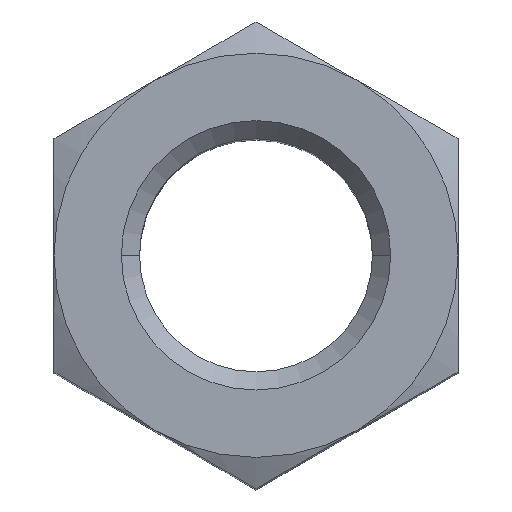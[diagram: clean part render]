
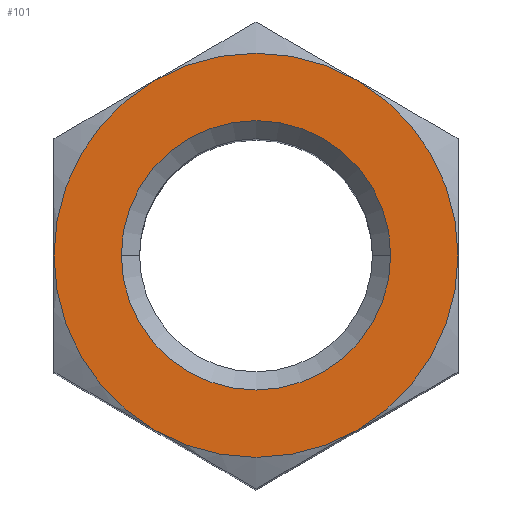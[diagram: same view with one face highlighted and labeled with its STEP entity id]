
A CAD part, top view. The second image highlights one B-rep face of the part: STEP entity #101.
In plain terms, the highlighted planar face has unit normal (0, 0, 1).
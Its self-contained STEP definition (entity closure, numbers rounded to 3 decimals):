
#101=ADVANCED_FACE('',(#197,#198),#199,.T.);
#197=FACE_OUTER_BOUND('',#285,.T.);
#198=FACE_BOUND('',#286,.T.);
#199=PLANE('',#287);
#285=EDGE_LOOP('',(#495,#496,#497,#498,#499,#500));
#286=EDGE_LOOP('',(#501,#502));
#287=AXIS2_PLACEMENT_3D('',#503,#504,#505);
#495=ORIENTED_EDGE('',*,*,#574,.T.);
#496=ORIENTED_EDGE('',*,*,#570,.T.);
#497=ORIENTED_EDGE('',*,*,#568,.T.);
#498=ORIENTED_EDGE('',*,*,#566,.T.);
#499=ORIENTED_EDGE('',*,*,#564,.T.);
#500=ORIENTED_EDGE('',*,*,#561,.T.);
#501=ORIENTED_EDGE('',*,*,#520,.T.);
#502=ORIENTED_EDGE('',*,*,#579,.T.);
#503=CARTESIAN_POINT('',(0.0,0.0,48.0));
#504=DIRECTION('',(0.0,0.0,1.0));
#505=DIRECTION('',(1.0,0.0,0.0));
#520=EDGE_CURVE('',#606,#609,#611,.T.);
#561=EDGE_CURVE('',#670,#672,#674,.T.);
#564=EDGE_CURVE('',#665,#670,#677,.T.);
#566=EDGE_CURVE('',#659,#665,#679,.T.);
#568=EDGE_CURVE('',#651,#659,#681,.T.);
#570=EDGE_CURVE('',#683,#651,#684,.T.);
#574=EDGE_CURVE('',#672,#683,#689,.T.);
#579=EDGE_CURVE('',#609,#606,#694,.T.);
#606=VERTEX_POINT('',#725);
#609=VERTEX_POINT('',#729);
#611=CIRCLE('',#732,8.0);
#651=VERTEX_POINT('',#905);
#659=VERTEX_POINT('',#937);
#665=VERTEX_POINT('',#966);
#670=VERTEX_POINT('',#993);
#672=VERTEX_POINT('',#1006);
#674=CIRCLE('',#1019,12.0);
#677=CIRCLE('',#1033,12.0);
#679=CIRCLE('',#1035,12.0);
#681=CIRCLE('',#1037,12.0);
#683=VERTEX_POINT('',#1039);
#684=CIRCLE('',#1040,12.0);
#689=CIRCLE('',#1067,12.0);
#694=CIRCLE('',#1084,8.0);
#725=CARTESIAN_POINT('',(8.0,0.0,48.0));
#729=CARTESIAN_POINT('',(-8.0,0.,48.0));
#732=AXIS2_PLACEMENT_3D('',#1114,#1115,#1116);
#905=CARTESIAN_POINT('',(-6.,-10.392,48.0));
#937=CARTESIAN_POINT('',(6.,-10.392,48.0));
#966=CARTESIAN_POINT('',(12.0,0.,48.0));
#993=CARTESIAN_POINT('',(6.,10.392,48.0));
#1006=CARTESIAN_POINT('',(-6.,10.392,48.0));
#1019=AXIS2_PLACEMENT_3D('',#1139,#1140,#1141);
#1033=AXIS2_PLACEMENT_3D('',#1142,#1143,#1144);
#1035=AXIS2_PLACEMENT_3D('',#1145,#1146,#1147);
#1037=AXIS2_PLACEMENT_3D('',#1148,#1149,#1150);
#1039=CARTESIAN_POINT('',(-12.0,0.0,48.0));
#1040=AXIS2_PLACEMENT_3D('',#1151,#1152,#1153);
#1067=AXIS2_PLACEMENT_3D('',#1154,#1155,#1156);
#1084=AXIS2_PLACEMENT_3D('',#1158,#1159,#1160);
#1114=CARTESIAN_POINT('',(0.0,0.0,48.0));
#1115=DIRECTION('',(0.0,0.0,-1.0));
#1116=DIRECTION('',(1.0,0.0,0.0));
#1139=CARTESIAN_POINT('',(0.0,0.0,48.0));
#1140=DIRECTION('',(0.0,0.0,1.0));
#1141=DIRECTION('',(-1.0,0.0,0.0));
#1142=CARTESIAN_POINT('',(0.0,0.0,48.0));
#1143=DIRECTION('',(0.0,0.0,1.0));
#1144=DIRECTION('',(-1.0,0.0,0.0));
#1145=CARTESIAN_POINT('',(0.0,0.0,48.0));
#1146=DIRECTION('',(0.0,0.0,1.0));
#1147=DIRECTION('',(-1.0,0.0,0.0));
#1148=CARTESIAN_POINT('',(0.0,0.0,48.0));
#1149=DIRECTION('',(0.0,0.0,1.0));
#1150=DIRECTION('',(-1.0,0.0,0.0));
#1151=CARTESIAN_POINT('',(0.0,0.0,48.0));
#1152=DIRECTION('',(0.0,0.0,1.0));
#1153=DIRECTION('',(-1.0,0.0,0.0));
#1154=CARTESIAN_POINT('',(0.0,0.0,48.0));
#1155=DIRECTION('',(0.0,0.0,1.0));
#1156=DIRECTION('',(-1.0,0.0,0.0));
#1158=CARTESIAN_POINT('',(0.0,0.0,48.0));
#1159=DIRECTION('',(0.0,0.0,-1.0));
#1160=DIRECTION('',(1.0,0.0,0.0));
